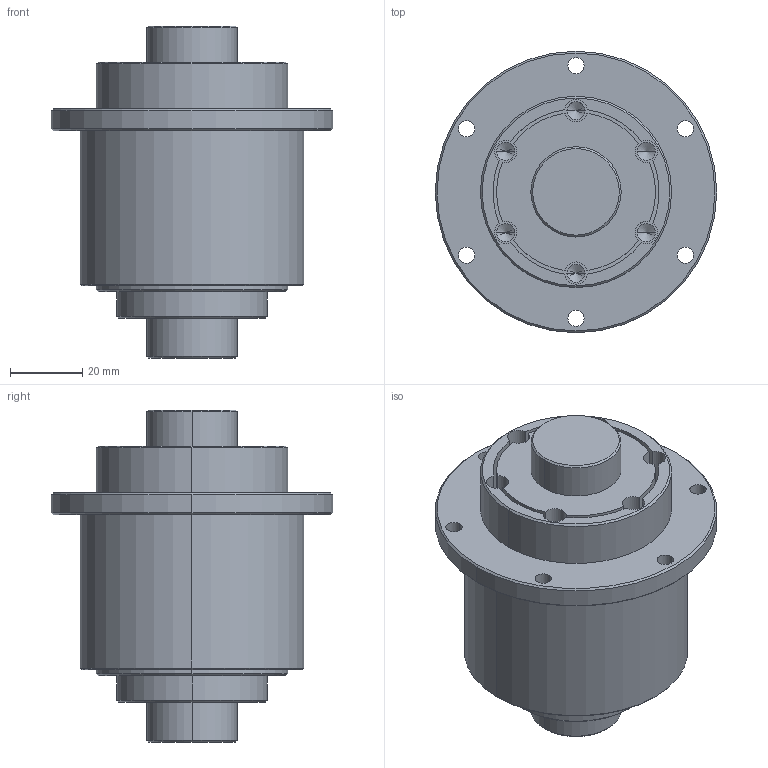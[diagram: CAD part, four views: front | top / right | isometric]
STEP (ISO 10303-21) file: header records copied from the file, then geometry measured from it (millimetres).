
FILE_DESCRIPTION (( 'STEP AP203' ), '1' );
FILE_NAME ('RLBF25.STEP', '2014-11-13T09:04:14', ( '' ), ( '' ), 'SwSTEP 2.0', 'SolidWorks 2014', '' );
FILE_SCHEMA (( 'CONFIG_CONTROL_DESIGN' ));
Length unit declared in the file: millimetre
Products named in the file (1): RLBF25
Bounding box: 78 x 78 x 92 mm (x, y, z)
Volume: 206396.4 mm3; surface area: 41580.4 mm2
Topology: 3 solids, 3 shells, 109 faces, 266 edges, 162 vertices
Faces by surface type: cylinder 70, cone 28, plane 11
Entity records: 3273 total; most frequent: DIRECTION 630, CARTESIAN_POINT 526, ORIENTED_EDGE 508, AXIS2_PLACEMENT_3D 266, EDGE_CURVE 254, VERTEX_POINT 162, CIRCLE 156, EDGE_LOOP 136
